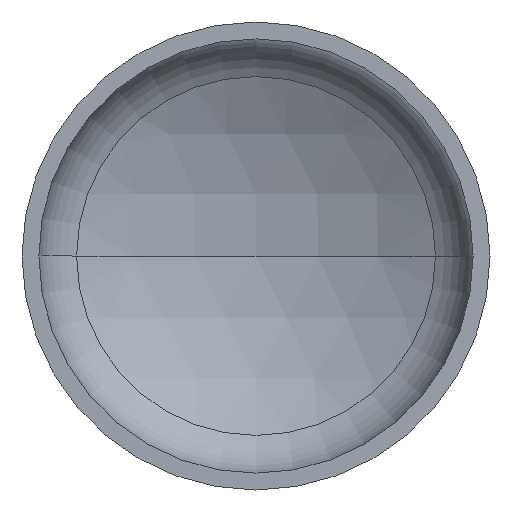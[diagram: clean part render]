
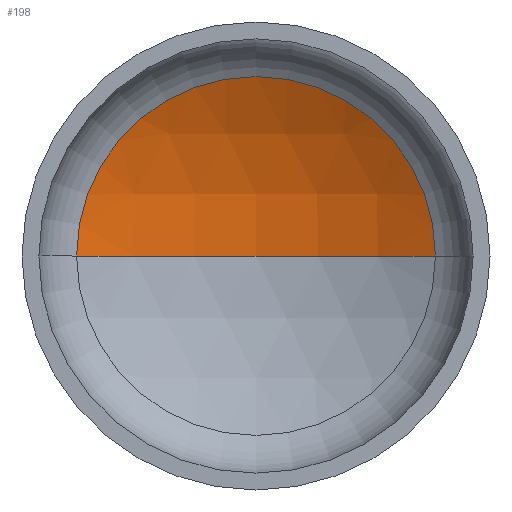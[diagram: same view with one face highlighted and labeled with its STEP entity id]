
A CAD part, front view. The second image highlights one B-rep face of the part: STEP entity #198.
In plain terms, the highlighted spherical face has radius 1600 mm.
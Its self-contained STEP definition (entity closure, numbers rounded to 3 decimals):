
#2 = AXIS2_PLACEMENT_3D ( 'NONE', #394, #253, #256 ) ;
#8 = ORIENTED_EDGE ( 'NONE', *, *, #353, .T. ) ;
#11 = EDGE_LOOP ( 'NONE', ( #27, #8, #134 ) ) ;
#12 = AXIS2_PLACEMENT_3D ( 'NONE', #242, #101, #131 ) ;
#15 = AXIS2_PLACEMENT_3D ( 'NONE', #147, #151, #153 ) ;
#27 = ORIENTED_EDGE ( 'NONE', *, *, #358, .F. ) ;
#53 = AXIS2_PLACEMENT_3D ( 'NONE', #196, #170, #239 ) ;
#63 = VERTEX_POINT ( 'NONE', #223 ) ;
#101 = DIRECTION ( 'NONE',  ( 0., 0., -1. ) ) ;
#120 = VERTEX_POINT ( 'NONE', #236 ) ;
#131 = DIRECTION ( 'NONE',  ( -1., 0., 0. ) ) ;
#134 = ORIENTED_EDGE ( 'NONE', *, *, #375, .T. ) ;
#147 = CARTESIAN_POINT ( 'NONE',  ( 0., -1012.332, 0. ) ) ;
#148 = CIRCLE ( 'NONE', #2, 766.512 ) ;
#151 = DIRECTION ( 'NONE',  ( 0., 0., 1. ) ) ;
#153 = DIRECTION ( 'NONE',  ( 1., 0., 0. ) ) ;
#170 = DIRECTION ( 'NONE',  ( 0., 0., -1. ) ) ;
#196 = CARTESIAN_POINT ( 'NONE',  ( 0., -1012.332, 0. ) ) ;
#198 = ADVANCED_FACE ( 'NONE', ( #199 ), #391, .F. ) ;
#199 = FACE_OUTER_BOUND ( 'NONE', #11, .T. ) ;
#223 = CARTESIAN_POINT ( 'NONE',  ( 0., 587.668, 0. ) ) ;
#229 = CIRCLE ( 'NONE', #15, 1600. ) ;
#235 = VERTEX_POINT ( 'NONE', #287 ) ;
#236 = CARTESIAN_POINT ( 'NONE',  ( 766.512, 392.111, 0. ) ) ;
#239 = DIRECTION ( 'NONE',  ( -1., 0., 0. ) ) ;
#242 = CARTESIAN_POINT ( 'NONE',  ( 0., -1012.332, 0. ) ) ;
#253 = DIRECTION ( 'NONE',  ( 0., -1., 0. ) ) ;
#256 = DIRECTION ( 'NONE',  ( 1., 0., 0. ) ) ;
#287 = CARTESIAN_POINT ( 'NONE',  ( -766.512, 392.111, 0. ) ) ;
#353 = EDGE_CURVE ( 'NONE', #63, #120, #407, .T. ) ;
#358 = EDGE_CURVE ( 'NONE', #63, #235, #229, .T. ) ;
#375 = EDGE_CURVE ( 'NONE', #120, #235, #148, .T. ) ;
#391 = SPHERICAL_SURFACE ( 'NONE', #53, 1600. ) ;
#394 = CARTESIAN_POINT ( 'NONE',  ( 0., 392.111, 0. ) ) ;
#407 = CIRCLE ( 'NONE', #12, 1600. ) ;
